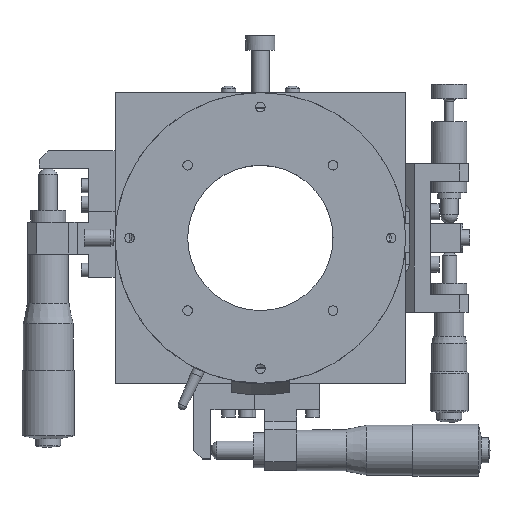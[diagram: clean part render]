
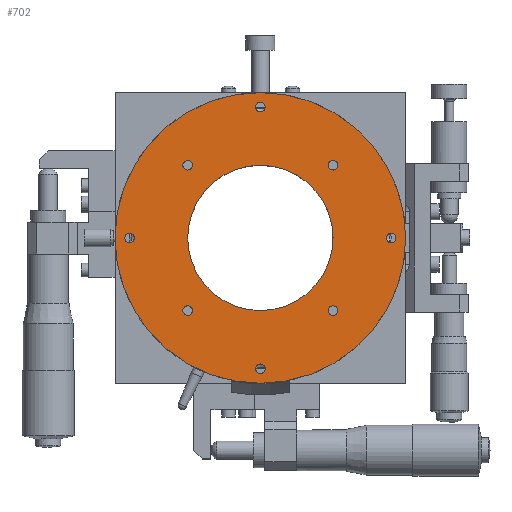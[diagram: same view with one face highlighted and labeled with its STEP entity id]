
A CAD part, top view. The second image highlights one B-rep face of the part: STEP entity #702.
In plain terms, the highlighted planar face has unit normal (0, 0, 1).
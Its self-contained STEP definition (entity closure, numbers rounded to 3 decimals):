
#702 = ADVANCED_FACE( '', ( #1451, #1452, #1453, #1454, #1455, #1456, #1457, #1458, #1459, #1460 ), #1461, .T. );
#1451 = FACE_BOUND( '', #3002, .T. );
#1452 = FACE_BOUND( '', #3003, .T. );
#1453 = FACE_BOUND( '', #3004, .T. );
#1454 = FACE_BOUND( '', #3005, .T. );
#1455 = FACE_BOUND( '', #3006, .T. );
#1456 = FACE_BOUND( '', #3007, .T. );
#1457 = FACE_BOUND( '', #3008, .T. );
#1458 = FACE_BOUND( '', #3009, .T. );
#1459 = FACE_BOUND( '', #3010, .T. );
#1460 = FACE_OUTER_BOUND( '', #3011, .T. );
#1461 = PLANE( '', #3012 );
#3002 = EDGE_LOOP( '', ( #4995 ) );
#3003 = EDGE_LOOP( '', ( #4996 ) );
#3004 = EDGE_LOOP( '', ( #4997 ) );
#3005 = EDGE_LOOP( '', ( #4998 ) );
#3006 = EDGE_LOOP( '', ( #4999 ) );
#3007 = EDGE_LOOP( '', ( #5000 ) );
#3008 = EDGE_LOOP( '', ( #5001 ) );
#3009 = EDGE_LOOP( '', ( #5002 ) );
#3010 = EDGE_LOOP( '', ( #5003 ) );
#3011 = EDGE_LOOP( '', ( #5004 ) );
#3012 = AXIS2_PLACEMENT_3D( '', #5005, #5006, #5007 );
#4995 = ORIENTED_EDGE( '', *, *, #8717, .T. );
#4996 = ORIENTED_EDGE( '', *, *, #8718, .T. );
#4997 = ORIENTED_EDGE( '', *, *, #8719, .T. );
#4998 = ORIENTED_EDGE( '', *, *, #8720, .T. );
#4999 = ORIENTED_EDGE( '', *, *, #8721, .T. );
#5000 = ORIENTED_EDGE( '', *, *, #8722, .T. );
#5001 = ORIENTED_EDGE( '', *, *, #8723, .T. );
#5002 = ORIENTED_EDGE( '', *, *, #8724, .T. );
#5003 = ORIENTED_EDGE( '', *, *, #8725, .T. );
#5004 = ORIENTED_EDGE( '', *, *, #8726, .T. );
#5005 = CARTESIAN_POINT( '', ( 0., -50., 50. ) );
#5006 = DIRECTION( '', ( 0., 0., 1. ) );
#5007 = DIRECTION( '', ( 0., 1., 0. ) );
#8717 = EDGE_CURVE( '', #10077, #10077, #10078, .T. );
#8718 = EDGE_CURVE( '', #10079, #10079, #10080, .T. );
#8719 = EDGE_CURVE( '', #10081, #10081, #10082, .T. );
#8720 = EDGE_CURVE( '', #10083, #10083, #10084, .T. );
#8721 = EDGE_CURVE( '', #10085, #10085, #10086, .T. );
#8722 = EDGE_CURVE( '', #10087, #10087, #10088, .T. );
#8723 = EDGE_CURVE( '', #10089, #10089, #10090, .T. );
#8724 = EDGE_CURVE( '', #10091, #10091, #10092, .T. );
#8725 = EDGE_CURVE( '', #10093, #10093, #10094, .F. );
#8726 = EDGE_CURVE( '', #10095, #10095, #10096, .T. );
#10077 = VERTEX_POINT( '', #12422 );
#10078 = CIRCLE( '', #12423, 1.65 );
#10079 = VERTEX_POINT( '', #12424 );
#10080 = CIRCLE( '', #12425, 1.65 );
#10081 = VERTEX_POINT( '', #12426 );
#10082 = CIRCLE( '', #12427, 1.65 );
#10083 = VERTEX_POINT( '', #12428 );
#10084 = CIRCLE( '', #12429, 1.65 );
#10085 = VERTEX_POINT( '', #12430 );
#10086 = CIRCLE( '', #12431, 1.65 );
#10087 = VERTEX_POINT( '', #12432 );
#10088 = CIRCLE( '', #12433, 1.65 );
#10089 = VERTEX_POINT( '', #12434 );
#10090 = CIRCLE( '', #12435, 1.65 );
#10091 = VERTEX_POINT( '', #12436 );
#10092 = CIRCLE( '', #12437, 1.65 );
#10093 = VERTEX_POINT( '', #12438 );
#10094 = CIRCLE( '', #12439, 25. );
#10095 = VERTEX_POINT( '', #12440 );
#10096 = CIRCLE( '', #12441, 50. );
#12422 = CARTESIAN_POINT( '', ( 25., 26.65, 50. ) );
#12423 = AXIS2_PLACEMENT_3D( '', #15261, #15262, #15263 );
#12424 = CARTESIAN_POINT( '', ( -25., 26.65, 50. ) );
#12425 = AXIS2_PLACEMENT_3D( '', #15264, #15265, #15266 );
#12426 = CARTESIAN_POINT( '', ( -25., -23.35, 50. ) );
#12427 = AXIS2_PLACEMENT_3D( '', #15267, #15268, #15269 );
#12428 = CARTESIAN_POINT( '', ( 25., -23.35, 50. ) );
#12429 = AXIS2_PLACEMENT_3D( '', #15270, #15271, #15272 );
#12430 = CARTESIAN_POINT( '', ( 45., 1.65, 50. ) );
#12431 = AXIS2_PLACEMENT_3D( '', #15273, #15274, #15275 );
#12432 = CARTESIAN_POINT( '', ( -1.65, 45., 50. ) );
#12433 = AXIS2_PLACEMENT_3D( '', #15276, #15277, #15278 );
#12434 = CARTESIAN_POINT( '', ( -45., -1.65, 50. ) );
#12435 = AXIS2_PLACEMENT_3D( '', #15279, #15280, #15281 );
#12436 = CARTESIAN_POINT( '', ( 1.65, -45., 50. ) );
#12437 = AXIS2_PLACEMENT_3D( '', #15282, #15283, #15284 );
#12438 = CARTESIAN_POINT( '', ( 0., 25., 50. ) );
#12439 = AXIS2_PLACEMENT_3D( '', #15285, #15286, #15287 );
#12440 = CARTESIAN_POINT( '', ( 0., 50., 50. ) );
#12441 = AXIS2_PLACEMENT_3D( '', #15288, #15289, #15290 );
#15261 = CARTESIAN_POINT( '', ( 25., 25., 50. ) );
#15262 = DIRECTION( '', ( 0., 0., -1. ) );
#15263 = DIRECTION( '', ( 0., 1., 0. ) );
#15264 = CARTESIAN_POINT( '', ( -25., 25., 50. ) );
#15265 = DIRECTION( '', ( 0., 0., -1. ) );
#15266 = DIRECTION( '', ( 0., 1., 0. ) );
#15267 = CARTESIAN_POINT( '', ( -25., -25., 50. ) );
#15268 = DIRECTION( '', ( 0., 0., -1. ) );
#15269 = DIRECTION( '', ( 0., 1., 0. ) );
#15270 = CARTESIAN_POINT( '', ( 25., -25., 50. ) );
#15271 = DIRECTION( '', ( 0., 0., -1. ) );
#15272 = DIRECTION( '', ( 0., 1., 0. ) );
#15273 = CARTESIAN_POINT( '', ( 45., 0., 50. ) );
#15274 = DIRECTION( '', ( 0., 0., -1. ) );
#15275 = DIRECTION( '', ( 0., 1., 0. ) );
#15276 = CARTESIAN_POINT( '', ( 0., 45., 50. ) );
#15277 = DIRECTION( '', ( 0., 0., -1. ) );
#15278 = DIRECTION( '', ( -1., 0., 0. ) );
#15279 = CARTESIAN_POINT( '', ( -45., 0., 50. ) );
#15280 = DIRECTION( '', ( 0., 0., -1. ) );
#15281 = DIRECTION( '', ( 0., -1., 0. ) );
#15282 = CARTESIAN_POINT( '', ( 0., -45., 50. ) );
#15283 = DIRECTION( '', ( 0., 0., -1. ) );
#15284 = DIRECTION( '', ( 1., 0., 0. ) );
#15285 = CARTESIAN_POINT( '', ( 0., 0., 50. ) );
#15286 = DIRECTION( '', ( 0., 0., 1. ) );
#15287 = DIRECTION( '', ( 0., 1., 0. ) );
#15288 = CARTESIAN_POINT( '', ( 0., 0., 50. ) );
#15289 = DIRECTION( '', ( 0., 0., 1. ) );
#15290 = DIRECTION( '', ( 0., 1., 0. ) );
